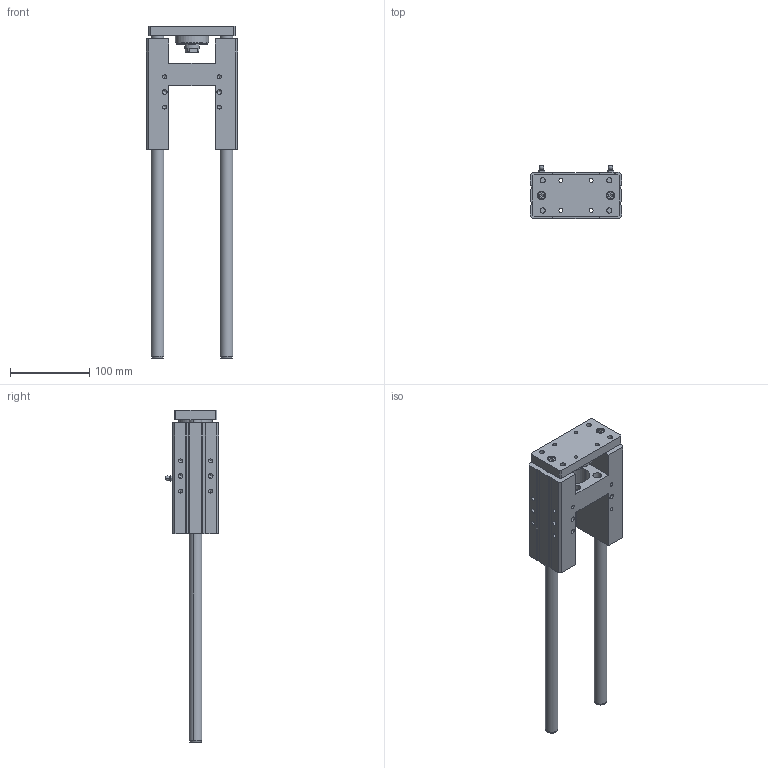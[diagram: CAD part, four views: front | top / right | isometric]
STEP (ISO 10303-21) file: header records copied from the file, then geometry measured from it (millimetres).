
FILE_DESCRIPTION (( 'STEP AP214' ), '1' );
FILE_NAME ('WHCB-040-0250 (3D).STEP', '2018-12-28T14:56:47', ( 'Hidtek' ), ( '' ), 'SwSTEP 2.0', 'SolidWorks 2016', '' );
FILE_SCHEMA (( 'AUTOMOTIVE_DESIGN' ));
Length unit declared in the file: millimetre
Products named in the file (4): Group2^WHCB-040-0250 (3D); Group1^WHCB-040-0250 (3D); WHCB-040-0250 (3D); Group3^WHCB-040-0250 (3D)
Assembly tree (3 placements, depth 2):
  WHCB-040-0250 (3D)
    Group1^WHCB-040-0250 (3D)
    Group2^WHCB-040-0250 (3D)
    Group3^WHCB-040-0250 (3D)
Bounding box: 115 x 67.05 x 419 mm (x, y, z)
Volume: 699683.9 mm3; surface area: 151684.6 mm2
Topology: 14 solids, 14 shells, 669 faces, 1674 edges, 1052 vertices
Faces by surface type: plane 359, cylinder 138, bspline 96, cone 76
Entity records: 26093 total; most frequent: CARTESIAN_POINT 8833, ORIENTED_EDGE 3228, DIRECTION 2958, EDGE_CURVE 1614, VECTOR 1052, VERTEX_POINT 1052, LINE 1052, AXIS2_PLACEMENT_3D 953
